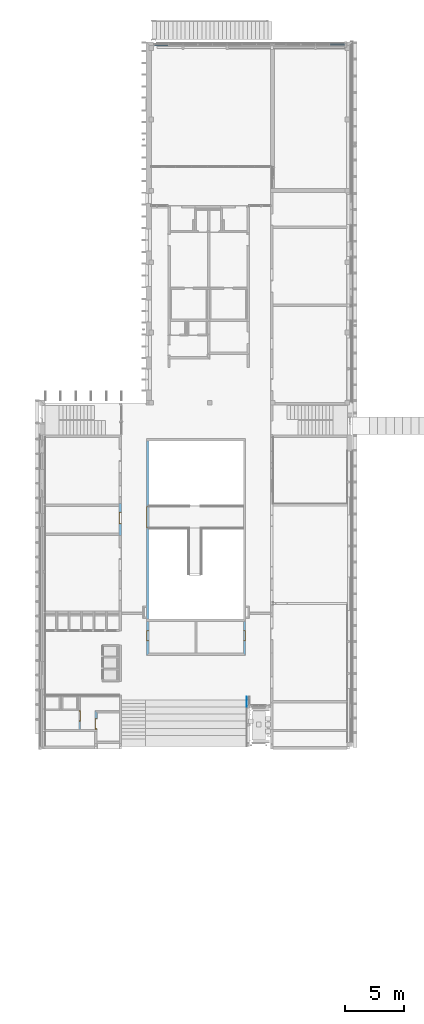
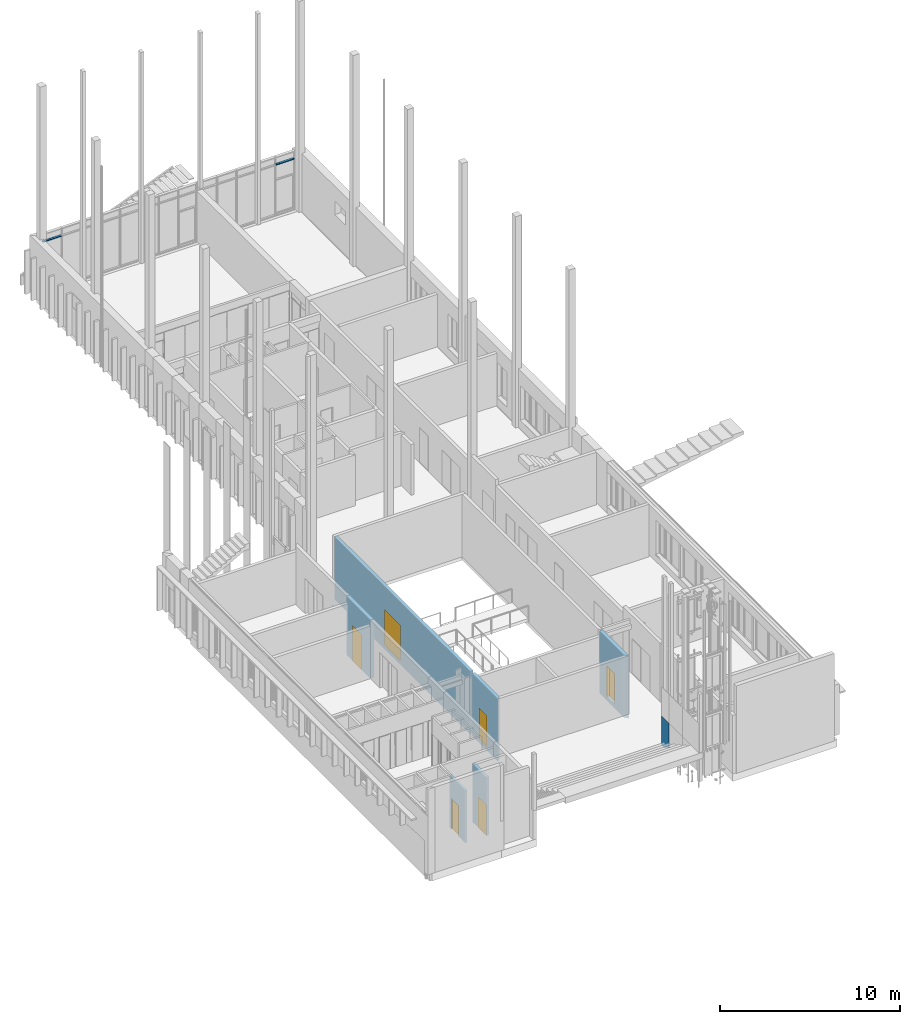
# One storey, part 37 of 89: 6 doors, 2 members, 1 wall, 6 openings, 1 element without a shape of its own, plus 6 elements that do not belong to this part.
"""IFC2X3 building model written with IfcOpenShell, lengths in millimetres."""

import ifcopenshell
import ifcopenshell.guid

model = None  # the IFC model being written
_history = None  # IfcOwnerHistory: only IFC2X3 demands one
_inside = {}  # id of a spatial element -> (the spatial element, [elements in it])
_under = {}  # id of a project, library or spatial element -> (it, [spatial elements below it])
_declared = {}  # id of a project -> (the project, [libraries it declares])
_typed = {}  # id of a type object -> (the type object, [elements of that type])
_made_of = {}  # id of a material, layer set ... -> (it, [elements and type objects made of it])


def new_model(schema):
    """Start an empty IFC model of exactly this schema.

    Asked for "IFC4X3", IfcOpenShell would pick the latest addendum, in which some entities
    have other attributes; the version numbers below select the first issue.
    IFC2X3 requires an IfcOwnerHistory on every rooted entity: one is made here for all.
    """
    global model, _history
    if schema == "IFC4X3":
        model = ifcopenshell.file(schema_version=(4, 3, 0, 0))
    else:
        model = ifcopenshell.file(schema=schema)
    _inside.clear()
    _under.clear()
    _declared.clear()
    _typed.clear()
    _made_of.clear()
    _history = None
    if model.schema == "IFC2X3":
        org = make("IfcOrganization", Name="unknown")
        user = make(
            "IfcPersonAndOrganization",
            ThePerson=make("IfcPerson", FamilyName="unknown"),
            TheOrganization=org,
        )
        app = make(
            "IfcApplication",
            ApplicationDeveloper=org,
            Version="unknown",
            ApplicationFullName="unknown",
            ApplicationIdentifier="unknown",
        )
        _history = make(
            "IfcOwnerHistory",
            OwningUser=user,
            OwningApplication=app,
            ChangeAction="ADDED",
            CreationDate=0,
        )
    return model


def make(cls, **values):
    """One entity of the class cls with the attributes given. An attribute that is None is left unset."""
    return model.create_entity(
        cls, **{name: value for name, value in values.items() if value is not None}
    )


def entity(cls, *values):
    """Any entity or typed value of the class cls, its attributes in the order of the schema. None: left unset."""
    e = model.create_entity(cls)
    for i, value in enumerate(values):
        if value is not None:
            e[i] = value
    return e


def rooted(cls, **values):
    """An entity with a GlobalId (a new one), such as an element, a storey or a relation."""
    return make(cls, GlobalId=ifcopenshell.guid.new(), OwnerHistory=_history, **values)


def si_unit(unit_type, name, prefix=None):
    """IfcSIUnit, for example si_unit("LENGTHUNIT", "METRE", prefix="MILLI")."""
    return make("IfcSIUnit", UnitType=unit_type, Prefix=prefix, Name=name)


def converted_unit(unit_type, name, factor, base, dimensions=None, offset=None):
    """IfcConversionBasedUnit, such as the inch: factor (a typed value) times the base unit."""
    return make(
        "IfcConversionBasedUnit"
        if offset is None
        else "IfcConversionBasedUnitWithOffset",
        ConversionOffset=offset,
        Dimensions=None
        if dimensions is None
        else entity("IfcDimensionalExponents", *dimensions),
        UnitType=unit_type,
        Name=name,
        ConversionFactor=make(
            "IfcMeasureWithUnit", ValueComponent=factor, UnitComponent=base
        ),
    )


def derived_unit(unit_type, elements):
    """IfcDerivedUnit: a product of units, each with its exponent."""
    return make(
        "IfcDerivedUnit",
        Elements=[
            make("IfcDerivedUnitElement", Unit=unit, Exponent=power)
            for unit, power in elements
        ],
        UnitType=unit_type,
    )


def money_unit(currency):
    """IfcMonetaryUnit."""
    return make("IfcMonetaryUnit", Currency=currency)


def assignment(units):
    """IfcUnitAssignment: the units of a project."""
    return None if units is None else make("IfcUnitAssignment", Units=units)


def point(xyz):
    """IfcCartesianPoint."""
    return None if xyz is None else make("IfcCartesianPoint", Coordinates=xyz)


def direction(xyz):
    """IfcDirection."""
    return None if xyz is None else make("IfcDirection", DirectionRatios=xyz)


def frame(location, z_axis=None, x_axis=None):
    """IfcAxis2Placement3D, a coordinate frame: its origin and axes. An axis left out is left unset."""
    return make(
        "IfcAxis2Placement3D",
        Location=point(location),
        Axis=direction(z_axis),
        RefDirection=direction(x_axis),
    )


def frame_2d(location, x_axis=None):
    """IfcAxis2Placement2D, a coordinate frame in the plane: its origin and x axis."""
    return make(
        "IfcAxis2Placement2D", Location=point(location), RefDirection=direction(x_axis)
    )


def origin_with_axes():
    """The frame at (0, 0, 0) with the z axis (0, 0, 1) and the x axis (1, 0, 0) written out."""
    return frame((0.0, 0.0, 0.0), z_axis=(0.0, 0.0, 1.0), x_axis=(1.0, 0.0, 0.0))


def origin_2d_with_axis():
    """The frame at (0, 0) in the plane with the x axis (1, 0) written out."""
    return frame_2d((0.0, 0.0), x_axis=(1.0, 0.0))


def place(relative_to, where):
    """IfcLocalPlacement: puts the frame where relative to a parent placement (None: the world)."""
    return make(
        "IfcLocalPlacement", PlacementRelTo=relative_to, RelativePlacement=where
    )


def context(
    kind, dimensions, precision=None, world=None, true_north=None, identifier=None
):
    """IfcGeometricRepresentationContext, for example the 3D "Model" context."""
    return make(
        "IfcGeometricRepresentationContext",
        ContextIdentifier=identifier,
        ContextType=kind,
        CoordinateSpaceDimension=dimensions,
        Precision=precision,
        WorldCoordinateSystem=world,
        TrueNorth=true_north,
    )


def subcontext(parent, identifier, kind, view, scale=None):
    """IfcGeometricRepresentationSubContext, for example "Body" below "Model"."""
    return make(
        "IfcGeometricRepresentationSubContext",
        ContextIdentifier=identifier,
        ContextType=kind,
        ParentContext=parent,
        TargetScale=scale,
        TargetView=view,
    )


def project(units=None, contexts=None):
    """IfcProject with its units and contexts."""
    return rooted(
        "IfcProject",
        Name="project",
        RepresentationContexts=contexts,
        UnitsInContext=assignment(units),
    )


def spatial(cls, under=None, at=None, **own):
    """A site, building, storey or space (cls), placed at a placement, below another one or the project."""
    s = rooted(cls, ObjectPlacement=at, **own)
    if under is not None:
        _under.setdefault(under.id(), (under, []))[1].append(s)
    return s


def polyline(points):
    """IfcPolyline through the points."""
    return make("IfcPolyline", Points=[point(p) for p in points])


def profile(cls, at=None, kind="AREA", **sizes):
    """A parametric profile (cls). Its sizes go by their IFC names, for example OverallWidth=200.0."""
    return make(cls, ProfileType=kind, Position=at, **sizes)


def rectangle(**sizes):
    """IfcRectangleProfileDef."""
    return profile("IfcRectangleProfileDef", **sizes)


def outline(outer, holes=None, kind="AREA"):
    """IfcArbitraryClosedProfileDef: a profile drawn as a closed curve; with holes, ...WithVoids."""
    if holes is None:
        return make("IfcArbitraryClosedProfileDef", ProfileType=kind, OuterCurve=outer)
    return make(
        "IfcArbitraryProfileDefWithVoids",
        ProfileType=kind,
        OuterCurve=outer,
        InnerCurves=holes,
    )


def extrude(swept, where, along, depth):
    """IfcExtrudedAreaSolid: the profile swept, set in the frame where, extruded along a direction by depth."""
    return make(
        "IfcExtrudedAreaSolid",
        SweptArea=swept,
        Position=where,
        ExtrudedDirection=direction(along),
        Depth=depth,
    )


def boolean(op, a, b):
    """IfcBooleanResult of two solids."""
    return make("IfcBooleanResult", Operator=op, FirstOperand=a, SecondOperand=b)


def faces_of(points, faces, orient=None, outer=None):
    """IfcFace entities. A face is a list of loops; a loop is a list of indices into points, from 0.

    orient and outer hold one flag for each loop. By default every Orientation is true, the
    first loop of a face is its IfcFaceOuterBound and the others are IfcFaceBound.
    """
    made = []
    for i, loops in enumerate(faces):
        bounds = []
        for j, loop in enumerate(loops):
            is_outer = j == 0 if outer is None else outer[i][j]
            bounds.append(
                make(
                    "IfcFaceOuterBound" if is_outer else "IfcFaceBound",
                    Bound=make("IfcPolyLoop", Polygon=[points[k] for k in loop]),
                    Orientation=True if orient is None else orient[i][j],
                )
            )
        made.append(make("IfcFace", Bounds=bounds))
    return made


def faceted_brep(points, faces, orient=None, outer=None, voids=None):
    """IfcFacetedBrep: a solid bounded by flat faces; with voids (closed shells), ...WithVoids."""
    shared = [point(p) for p in points]
    hull = make("IfcClosedShell", CfsFaces=faces_of(shared, faces, orient, outer))
    if voids is None:
        return make("IfcFacetedBrep", Outer=hull)
    return make(
        "IfcFacetedBrepWithVoids",
        Outer=hull,
        Voids=[
            make(cls, CfsFaces=faces_of(shared, fs, o, b)) for cls, fs, o, b in voids
        ],
    )


def shape(context_of_items, identifier, shape_type, items):
    """IfcShapeRepresentation: the items that make up one representation, for example the "Body"."""
    return make(
        "IfcShapeRepresentation",
        ContextOfItems=context_of_items,
        RepresentationIdentifier=identifier,
        RepresentationType=shape_type,
        Items=items,
    )


def material(Name=None, Category=None):
    """IfcMaterial."""
    return make("IfcMaterial", Name=Name, Category=Category)


def layer(
    of_material, thickness, ventilated=None, Name=None, Category=None, Priority=None
):
    """IfcMaterialLayer: one layer of a wall or slab, of a material (None: an air gap)."""
    return make(
        "IfcMaterialLayer",
        Material=of_material,
        LayerThickness=thickness,
        IsVentilated=ventilated,
        Name=Name,
        Category=Category,
        Priority=Priority,
    )


def layer_set(layers, Name=None):
    """IfcMaterialLayerSet."""
    return make("IfcMaterialLayerSet", MaterialLayers=layers, LayerSetName=Name)


def layer_usage(for_layer_set, set_direction, sense, offset, extent=None):
    """IfcMaterialLayerSetUsage: how a layer set lies in its element."""
    return make(
        "IfcMaterialLayerSetUsage",
        ForLayerSet=for_layer_set,
        LayerSetDirection=set_direction,
        DirectionSense=sense,
        OffsetFromReferenceLine=offset,
        ReferenceExtent=extent,
    )


def made_of(thing, what):
    """Note that an element or type object is made of a material, layer set ...; save() writes the relation."""
    if what is not None:
        _made_of.setdefault(what.id(), (what, []))[1].append(thing)
    return thing


def type_object(cls, material=None, **own):
    """A type object (cls), such as IfcWallType, which elements share."""
    return made_of(rooted(cls, **own), material)


def element(
    cls,
    number,
    at=None,
    inside=None,
    cuts=None,
    type_object=None,
    material=None,
    context=None,
    identifier="Body",
    shape_type=None,
    held_by="IfcProductDefinitionShape",
    body=None,
    shapes=None,
    **own,
):
    """One element of the class cls, such as IfcWall. Its Tag is "e" and its number.

    at: its placement. inside: the storey or other place that contains it. cuts: it is an
    opening in that element (IfcRelVoidsElement). A single representation is given by context,
    identifier, shape_type and body (its items); several are given by shapes. held_by: the class
    of the entity that holds the representations. save() writes the other relations.
    """
    e = rooted(cls, Tag="e%d" % number, ObjectPlacement=at, **own)
    if body is not None:
        shapes = [shape(context, identifier, shape_type, body)]
    if shapes is not None:
        e.Representation = make(held_by, Representations=shapes)
    if inside is not None:
        _inside.setdefault(inside.id(), (inside, []))[1].append(e)
    if cuts is not None:
        rooted(
            "IfcRelVoidsElement", RelatingBuildingElement=cuts, RelatedOpeningElement=e
        )
    if type_object is not None:
        _typed.setdefault(type_object.id(), (type_object, []))[1].append(e)
    return made_of(e, material)


def fill(opening, filler):
    """IfcRelFillsElement: the door or window that sits in an opening."""
    return rooted(
        "IfcRelFillsElement",
        RelatingOpeningElement=opening,
        RelatedBuildingElement=filler,
    )


def aggregate(whole, parts):
    """IfcRelAggregates: a whole, such as a stair, and the parts it consists of."""
    return rooted("IfcRelAggregates", RelatingObject=whole, RelatedObjects=parts)


def save(model, path):
    """Write the relations noted so far, then the file.

    IfcRelAggregates (storeys below a building ...), IfcRelContainedInSpatialStructure (elements
    in a storey), IfcRelDefinesByType, IfcRelAssociatesMaterial and IfcRelDeclares: one each for
    every whole, place, type object, material and project.
    """
    for whole, parts in _under.values():
        aggregate(whole, parts)
    for where, things in _inside.values():
        rooted(
            "IfcRelContainedInSpatialStructure",
            RelatedElements=things,
            RelatingStructure=where,
        )
    for kind, things in _typed.values():
        rooted("IfcRelDefinesByType", RelatedObjects=things, RelatingType=kind)
    for what, things in _made_of.values():
        rooted("IfcRelAssociatesMaterial", RelatedObjects=things, RelatingMaterial=what)
    for by, libraries in _declared.values():
        rooted("IfcRelDeclares", RelatingContext=by, RelatedDefinitions=libraries)
    model.write(path)


model = new_model("IFC2X3")

# Units and contexts
model_context = context("Model", 3, precision=0.01, world=origin_with_axes(), true_north=direction((0.0, 1.0)))
body_context = subcontext(model_context, "Body", "Model", "MODEL_VIEW")
ifc_project = project(units=[si_unit("LENGTHUNIT", "METRE", prefix="MILLI"), si_unit("AREAUNIT", "SQUARE_METRE"), si_unit("VOLUMEUNIT", "CUBIC_METRE"), converted_unit("PLANEANGLEUNIT", "DEGREE", entity("IfcPlaneAngleMeasure", 0.0174532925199), si_unit("PLANEANGLEUNIT", "RADIAN"), dimensions=[0, 0, 0, 0, 0, 0, 0]), si_unit("SOLIDANGLEUNIT", "STERADIAN"), money_unit("EUR"), converted_unit("TIMEUNIT", "Year", entity("IfcTimeMeasure", 31556926.0), si_unit("TIMEUNIT", "SECOND"), dimensions=[0, 0, 1, 0, 0, 0, 0]), si_unit("MASSUNIT", "GRAM", prefix="KILO"), si_unit("THERMODYNAMICTEMPERATUREUNIT", "DEGREE_CELSIUS"), si_unit("LUMINOUSINTENSITYUNIT", "LUMEN"), si_unit("ENERGYUNIT", "JOULE", prefix="MEGA"), derived_unit("THERMALCONDUCTANCEUNIT", [(si_unit("POWERUNIT", "WATT"), 1), (si_unit("LENGTHUNIT", "METRE"), -1), (si_unit("THERMODYNAMICTEMPERATUREUNIT", "KELVIN"), -1)]), derived_unit("SPECIFICHEATCAPACITYUNIT", [(si_unit("ENERGYUNIT", "JOULE"), 1), (si_unit("MASSUNIT", "GRAM", prefix="KILO"), -1), (si_unit("THERMODYNAMICTEMPERATUREUNIT", "KELVIN"), -1)]), derived_unit("MASSDENSITYUNIT", [(si_unit("MASSUNIT", "GRAM", prefix="KILO"), 1), (si_unit("VOLUMEUNIT", "CUBIC_METRE"), -1)])], contexts=[model_context])

# Site, building, storey
site_placement = place(None, origin_with_axes())
site = spatial("IfcSite", under=ifc_project, at=site_placement, Name="Puškini 31, Narva", CompositionType="ELEMENT")
building_placement = place(site_placement, origin_with_axes())
building = spatial("IfcBuilding", under=site, at=building_placement, Name="Narva Riigigümnaasium", CompositionType="ELEMENT")
storey_placement = place(building_placement, frame((0.0, 0.0, -3300.0), z_axis=(0.0, 0.0, 1.0), x_axis=(1.0, 0.0, 0.0)))
storey = spatial("IfcBuildingStorey", under=building, at=storey_placement, Name="1.korrus -3.3", CompositionType="ELEMENT", Elevation=-3300.0)

# Curtain wall, members
curtain_wall_type = type_object("IfcCurtainWallType", Name="Curtain Wall Type", PredefinedType="NOTDEFINED")
curtain_wall_placement = place(storey_placement, frame((47634.9999923, 254360.0, -1.86566340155e-05), z_axis=(0.0, 0.0, 1.0), x_axis=(1.0, 0.0, 0.0)))
curtain_wall = element("IfcCurtainWall", 1, at=curtain_wall_placement, inside=storey, type_object=curtain_wall_type, Name="G-KLF-06")
ifc_material_1 = material(Name="ET-04_Alumiinium")
member_type = type_object("IfcMemberType", Name="Boundary Frame 50 x 176", PredefinedType="MULLION")
member_1_placement = place(curtain_wall_placement, frame((4919.00000934, 0.0, 3420.00003901), z_axis=(1.0, 0.0, 0.0), x_axis=(0.0, 0.0, 1.0)))
member_1 = element("IfcMember", 2, at=member_1_placement, type_object=member_type, material=ifc_material_1, Name="klaasfassaadi raam", ObjectType="MULLION", context=body_context, shape_type="Brep", body=[
    faceted_brep([(-10.0, 29.0, 1226.00000014), (-10.0, -29.0, 1226.00000014), (-25.0, -29.0, 1196.00000014), (-25.0, -46.0, 1196.00000014), (0.0, -46.0, 1246.00000014), (0.0, 130.0, 1246.00000014), (-25.0, 130.0, 1196.00000014), (-25.0, 29.0, 1196.00000014), (-10.0, 29.0, 0.0), (-10.0, -29.0, 0.0), (-25.0, -29.0, 0.0), (-25.0, -46.0, 0.0), (25.0, -46.0, 0.0), (25.0, -46.0, 1196.00000014), (25.0, -29.0, 1196.00000014), (10.0, -29.0, 1226.00000014), (10.0, 29.0, 1226.00000014), (25.0, 29.0, 1196.00000014), (25.0, 130.0, 1196.00000014), (25.0, 130.0, 0.0), (-25.0, 130.0, 0.0), (-25.0, 29.0, 0.0), (25.0, 29.0, 0.0), (10.0, 29.0, 0.0), (10.0, -29.0, 0.0), (25.0, -29.0, 0.0)], [[[0, 1, 2, 3, 4, 5, 6, 7]], [[0, 8, 9, 1]], [[1, 9, 10, 2]], [[10, 11, 3, 2]], [[11, 12, 13, 4, 3]], [[5, 4, 13, 14, 15, 16, 17, 18]], [[18, 19, 20, 6, 5]], [[7, 6, 20, 21]], [[7, 21, 8, 0]], [[9, 8, 21, 20, 19, 22, 23, 24, 25, 12, 11, 10]], [[25, 14, 13, 12]], [[14, 25, 24, 15]], [[16, 15, 24, 23]], [[17, 16, 23, 22]], [[17, 22, 19, 18]]]),
])
member_2_placement = place(curtain_wall_placement, frame((-10032.9999923, 0.0, 3420.00003901), z_axis=(1.0, 0.0, 0.0), x_axis=(0.0, 0.0, 1.0)))
member_2 = element("IfcMember", 3, at=member_2_placement, type_object=member_type, material=ifc_material_1, Name="klaasfassaadi raam", ObjectType="MULLION", context=body_context, shape_type="Brep", body=[
    faceted_brep([(-10.0, 29.0, 1242.99997484), (-10.0, -29.0, 1242.99997484), (-25.0, -29.0, 1242.99997484), (-25.0, -46.0, 1242.99997484), (25.0, -46.0, 1242.99997484), (25.0, -29.0, 1242.99997484), (10.0, -29.0, 1242.99997484), (10.0, 29.0, 1242.99997484), (25.0, 29.0, 1242.99997484), (25.0, 130.0, 1242.99997484), (-25.0, 130.0, 1242.99997484), (-25.0, 29.0, 1242.99997484), (-10.0, 29.0, 20.0), (-10.0, -29.0, 20.0), (-25.0, -29.0, 50.0), (-25.0, -46.0, 50.0), (25.0, -46.0, 50.0), (0.0, -46.0, 0.0), (25.0, -29.0, 50.0), (10.0, -29.0, 20.0), (10.0, 29.0, 20.0), (25.0, 29.0, 50.0), (25.0, 130.0, 50.0), (-25.0, 130.0, 50.0), (0.0, 130.0, 0.0), (-25.0, 29.0, 50.0)], [[[0, 1, 2, 3, 4, 5, 6, 7, 8, 9, 10, 11]], [[0, 12, 13, 1]], [[1, 13, 14, 2]], [[14, 15, 3, 2]], [[16, 4, 3, 15, 17]], [[18, 5, 4, 16]], [[5, 18, 19, 6]], [[7, 6, 19, 20]], [[8, 7, 20, 21]], [[8, 21, 22, 9]], [[23, 10, 9, 22, 24]], [[11, 10, 23, 25]], [[11, 25, 12, 0]], [[13, 12, 25, 23, 24, 17, 15, 14]], [[16, 17, 24, 22, 21, 20, 19, 18]]]),
])
aggregate(curtain_wall, [member_1, member_2])

# Wall, opening, door
ifc_material_2 = material(Name="Betoon element")
ifc_layer_1 = layer(ifc_material_2, 200.0, ventilated="UNKNOWN")
ifc_layer_set_1 = layer_set([ifc_layer_1], Name="G-SS-01")
ifc_layer_usage_1 = layer_usage(ifc_layer_set_1, "AXIS2", "NEGATIVE", 0.0)
wall_type_1 = type_object("IfcWallType", Name="G-SS-01 200", PredefinedType="NOTDEFINED")
wall_1_placement = place(storey_placement, frame((37200.0042688, 220780.0, -290.0), z_axis=(0.0, 0.0, 1.0), x_axis=(0.0, -1.0, 0.0)))
wall_1 = element("IfcWallStandardCase", 4, at=wall_1_placement, inside=storey, type_object=wall_type_1, material=ifc_layer_usage_1, Name="Sisesein", context=body_context, shape_type="SweptSolid", body=[
    extrude(outline(polyline([(0.0, -200.0), (15079.9999758, -200.0), (15079.9999758, 0.0), (0.0, 0.0), (0.0, -200.0)])), origin_with_axes(), (0.0, 0.0, 1.0), 4250.0),
])
opening_1_placement = place(wall_1_placement, frame((6465.49976501, 0.0, 290.0), z_axis=(0.0, 0.0, 1.0), x_axis=(1.0, 0.0, 0.0)))
opening_1 = element("IfcOpeningElement", 5, at=opening_1_placement, cuts=wall_1, Name="G-SU-036", context=body_context, shape_type="SweptSolid", body=[
    extrude(rectangle(XDim=1799.99999997, YDim=2400.0, at=origin_2d_with_axis()), frame((0.0, 200.0, 1200.0), z_axis=(0.0, 1.0, 0.0), x_axis=(1.0, 0.0, 0.0)), (0.0, 0.0, -1.0), 600.0),
])
door_style_1 = type_object("IfcDoorStyle", Name="Double Door 23", ConstructionType="NOTDEFINED", OperationType="DOUBLE_DOOR_SINGLE_SWING", ParameterTakesPrecedence=False, Sizeable=False)
door_1_placement = place(opening_1_placement, frame((899.999999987, 0.0, 0.0), z_axis=(0.0, 0.0, 1.0), x_axis=(-1.0, 0.0, 0.0)))
door_1 = element("IfcDoor", 6, at=door_1_placement, inside=storey, type_object=door_style_1, Name="G-SU-036", ObjectType="DOOR", OverallHeight=2400.0, OverallWidth=1800.0, context=body_context, shape_type="Brep", body=[
    faceted_brep([(1759.99999997, 160.0, 0.0), (1759.99999997, 0.0, 0.0), (1759.99999997, 0.0, 2360.0), (1759.99999997, 160.0, 2360.0), (1771.99999997, 160.0, 0.0), (1771.99999997, 200.0, 0.0), (1799.99999997, 200.0, 0.0), (1799.99999997, 0.0, 0.0), (1799.99999997, 0.0, 2360.0), (1771.99999997, 160.0, 2360.0), (1799.99999997, 200.0, 2360.0), (1771.99999997, 200.0, 2360.0)], [[[0, 1, 2, 3]], [[4, 5, 6, 7, 1, 0]], [[1, 7, 8, 2]], [[9, 3, 2, 8, 10, 11]], [[9, 4, 0, 3]], [[11, 5, 4, 9]], [[11, 10, 6, 5]], [[6, 10, 8, 7]]]),
    faceted_brep([(28.0, 160.0, 2360.0), (28.0, 200.0, 2360.0), (0.0, 200.0, 2360.0), (0.0, 0.0, 2360.0), (40.0, 0.0, 2360.0), (40.0, 160.0, 2360.0), (28.0, 160.0, 0.0), (28.0, 200.0, 0.0), (0.0, 200.0, 0.0), (0.0, 0.0, 0.0), (40.0, 0.0, 0.0), (40.0, 160.0, 0.0)], [[[0, 1, 2, 3, 4, 5]], [[0, 6, 7, 1]], [[7, 8, 2, 1]], [[2, 8, 9, 3]], [[3, 9, 10, 4]], [[5, 4, 10, 11]], [[5, 11, 6, 0]], [[6, 11, 10, 9, 8, 7]]]),
    faceted_brep([(1771.99999997, 200.0, 2372.0), (28.0, 200.0, 2372.0), (28.0, 200.0, 2360.0), (0.0, 200.0, 2360.0), (0.0, 200.0, 2400.0), (1799.99999997, 200.0, 2400.0), (1799.99999997, 200.0, 2360.0), (1771.99999997, 200.0, 2360.0), (1771.99999997, 160.0, 2372.0), (28.0, 160.0, 2372.0), (28.0, 160.0, 2360.0), (40.0, 160.0, 2360.0), (40.0, 0.0, 2360.0), (0.0, 0.0, 2360.0), (0.0, 0.0, 2400.0), (1799.99999997, 0.0, 2400.0), (1799.99999997, 0.0, 2360.0), (1771.99999997, 160.0, 2360.0), (1759.99999997, 0.0, 2360.0), (1759.99999997, 160.0, 2360.0)], [[[0, 1, 2, 3, 4, 5, 6, 7]], [[0, 8, 9, 1]], [[1, 9, 10, 2]], [[10, 11, 12, 13, 3, 2]], [[4, 3, 13, 14]], [[5, 4, 14, 15]], [[6, 5, 15, 16]], [[17, 7, 6, 16, 18, 19]], [[7, 17, 8, 0]], [[10, 9, 8, 17, 19, 11]], [[19, 18, 12, 11]], [[12, 18, 16, 15, 14, 13]]]),
    faceted_brep([(28.0, 200.0, 0.0), (899.999999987, 200.0, 0.0), (899.999999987, 160.0, 0.0), (28.0, 160.0, 0.0), (28.0, 200.0, 2372.0), (899.999999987, 200.0, 2372.0), (899.999999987, 160.0, 2372.0), (28.0, 160.0, 2372.0)], [[[0, 1, 2, 3]], [[0, 4, 5, 1]], [[1, 5, 6, 2]], [[3, 2, 6, 7]], [[4, 0, 3, 7]], [[5, 4, 7, 6]]]),
    faceted_brep([(1771.99999997, 200.0, 0.0), (1771.99999997, 160.0, 0.0), (899.999999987, 160.0, 0.0), (899.999999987, 200.0, 0.0), (1771.99999997, 200.0, 2372.0), (1771.99999997, 160.0, 2372.0), (899.999999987, 160.0, 2372.0), (899.999999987, 200.0, 2372.0)], [[[0, 1, 2, 3]], [[4, 5, 1, 0]], [[1, 5, 6, 2]], [[3, 2, 6, 7]], [[0, 3, 7, 4]], [[7, 6, 5, 4]]]),
])
fill(opening_1, door_1)

wall_2_placement = place(storey_placement, frame((45199.9999996, 202600.000006, -290.0), z_axis=(0.0, 0.0, 1.0), x_axis=(0.0, 1.0, 0.0)))
wall_2 = element("IfcWallStandardCase", 7, at=wall_2_placement, inside=storey, type_object=wall_type_1, material=ifc_layer_usage_1, Name="Sisesein", context=body_context, shape_type="SweptSolid", body=[
    extrude(outline(polyline([(-5.93698246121e-06, -200.0), (2900.00001827, -200.0), (2900.00001827, 0.0), (199.999994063, 0.0), (-5.93698246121e-06, -200.0)])), origin_with_axes(), (0.0, 0.0, 1.0), 4250.0),
])
opening_2_placement = place(wall_2_placement, frame((1665.00026742, 0.0, 290.0), z_axis=(0.0, 0.0, 1.0), x_axis=(1.0, 0.0, 0.0)))
opening_2 = element("IfcOpeningElement", 8, at=opening_2_placement, cuts=wall_2, Name="G-SU-038", context=body_context, shape_type="SweptSolid", body=[
    extrude(rectangle(XDim=900.0, YDim=2100.0, at=origin_2d_with_axis()), frame((0.0, 200.0, 1050.0), z_axis=(0.0, 1.0, 0.0), x_axis=(1.0, 0.0, 0.0)), (0.0, 0.0, -1.0), 600.0),
])
door_style_2 = type_object("IfcDoorStyle", Name="Door 23", ConstructionType="NOTDEFINED", OperationType="SINGLE_SWING_LEFT", ParameterTakesPrecedence=False, Sizeable=False)
door_2_placement = place(opening_2_placement, frame((450.0, 0.0, 0.0), z_axis=(0.0, 0.0, 1.0), x_axis=(-1.0, 0.0, 0.0)))
door_2 = element("IfcDoor", 9, at=door_2_placement, inside=storey, type_object=door_style_2, Name="G-SU-038", ObjectType="DOOR", OverallHeight=2100.0, OverallWidth=900.0, context=body_context, shape_type="Brep", body=[
    faceted_brep([(860.0, 160.0, 0.0), (860.0, 0.0, 0.0), (860.0, 0.0, 2060.0), (860.0, 160.0, 2060.0), (872.0, 160.0, 0.0), (872.0, 200.0, 0.0), (900.0, 200.0, 0.0), (900.0, 0.0, 0.0), (900.0, 0.0, 2060.0), (872.0, 160.0, 2060.0), (900.0, 200.0, 2060.0), (872.0, 200.0, 2060.0)], [[[0, 1, 2, 3]], [[4, 5, 6, 7, 1, 0]], [[1, 7, 8, 2]], [[9, 3, 2, 8, 10, 11]], [[9, 4, 0, 3]], [[11, 5, 4, 9]], [[11, 10, 6, 5]], [[6, 10, 8, 7]]]),
    faceted_brep([(28.0, 160.0, 2060.0), (28.0, 200.0, 2060.0), (0.0, 200.0, 2060.0), (0.0, 0.0, 2060.0), (40.0, 0.0, 2060.0), (40.0, 160.0, 2060.0), (28.0, 160.0, 0.0), (28.0, 200.0, 0.0), (0.0, 200.0, 0.0), (0.0, 0.0, 0.0), (40.0, 0.0, 0.0), (40.0, 160.0, 0.0)], [[[0, 1, 2, 3, 4, 5]], [[0, 6, 7, 1]], [[7, 8, 2, 1]], [[2, 8, 9, 3]], [[3, 9, 10, 4]], [[5, 4, 10, 11]], [[5, 11, 6, 0]], [[6, 11, 10, 9, 8, 7]]]),
    faceted_brep([(872.0, 200.0, 2072.0), (28.0, 200.0, 2072.0), (28.0, 200.0, 2060.0), (0.0, 200.0, 2060.0), (0.0, 200.0, 2100.0), (900.0, 200.0, 2100.0), (900.0, 200.0, 2060.0), (872.0, 200.0, 2060.0), (872.0, 160.0, 2072.0), (28.0, 160.0, 2072.0), (28.0, 160.0, 2060.0), (40.0, 160.0, 2060.0), (40.0, 0.0, 2060.0), (0.0, 0.0, 2060.0), (0.0, 0.0, 2100.0), (900.0, 0.0, 2100.0), (900.0, 0.0, 2060.0), (872.0, 160.0, 2060.0), (860.0, 0.0, 2060.0), (860.0, 160.0, 2060.0)], [[[0, 1, 2, 3, 4, 5, 6, 7]], [[0, 8, 9, 1]], [[1, 9, 10, 2]], [[10, 11, 12, 13, 3, 2]], [[4, 3, 13, 14]], [[5, 4, 14, 15]], [[6, 5, 15, 16]], [[17, 7, 6, 16, 18, 19]], [[7, 17, 8, 0]], [[10, 9, 8, 17, 19, 11]], [[19, 18, 12, 11]], [[12, 18, 16, 15, 14, 13]]]),
    faceted_brep([(28.0, 200.0, 0.0), (872.0, 200.0, 0.0), (872.0, 160.0, 0.0), (28.0, 160.0, 0.0), (28.0, 200.0, 2072.0), (872.0, 200.0, 2072.0), (872.0, 160.0, 2072.0), (28.0, 160.0, 2072.0)], [[[0, 1, 2, 3]], [[0, 4, 5, 1]], [[1, 5, 6, 2]], [[3, 2, 6, 7]], [[4, 0, 3, 7]], [[5, 4, 7, 6]]]),
])
fill(opening_2, door_2)

wall_3_placement = place(storey_placement, frame((37199.932167, 205700.000024, -290.0), z_axis=(0.0, 0.0, 1.0), x_axis=(0.0, -1.0, 0.0)))
wall_3 = element("IfcWallStandardCase", 10, at=wall_3_placement, inside=storey, type_object=wall_type_1, material=ifc_layer_usage_1, Name="Sisesein", context=body_context, shape_type="SweptSolid", body=[
    extrude(outline(polyline([(200.0, -200.0), (3100.00002421, -200.0), (2900.00002421, 0.0), (200.0, 0.0), (200.0, -200.0)])), origin_with_axes(), (0.0, 0.0, 1.0), 4250.0),
])
opening_3_placement = place(wall_3_placement, frame((1434.9998066, 0.0, 290.0), z_axis=(0.0, 0.0, 1.0), x_axis=(1.0, 0.0, 0.0)))
opening_3 = element("IfcOpeningElement", 11, at=opening_3_placement, cuts=wall_3, Name="G-SU-037", context=body_context, shape_type="SweptSolid", body=[
    extrude(rectangle(XDim=900.0, YDim=2100.0, at=origin_2d_with_axis()), frame((0.0, 200.0, 1050.0), z_axis=(0.0, -1.0, 0.0), x_axis=(-1.0, 0.0, 0.0)), (0.0, 0.0, 1.0), 600.0),
])
door_style_3 = type_object("IfcDoorStyle", Name="Door 23", ConstructionType="NOTDEFINED", OperationType="SINGLE_SWING_RIGHT", ParameterTakesPrecedence=False, Sizeable=False)
door_3_placement = place(opening_3_placement, frame((450.0, 0.0, 0.0), z_axis=(0.0, 0.0, 1.0), x_axis=(-1.0, 0.0, 0.0)))
door_3 = element("IfcDoor", 12, at=door_3_placement, inside=storey, type_object=door_style_3, Name="G-SU-037", ObjectType="DOOR", OverallHeight=2100.0, OverallWidth=900.0, context=body_context, shape_type="Brep", body=[
    faceted_brep([(40.0, 160.0, 0.0), (40.0, 160.0, 2060.0), (40.0, 0.0, 2060.0), (40.0, 0.0, 0.0), (28.0, 160.0, 2060.0), (28.0, 160.0, 0.0), (28.0, 200.0, 2060.0), (0.0, 200.0, 2060.0), (0.0, 0.0, 2060.0), (0.0, 0.0, 0.0), (0.0, 200.0, 0.0), (28.0, 200.0, 0.0)], [[[0, 1, 2, 3]], [[4, 1, 0, 5]], [[4, 6, 7, 8, 2, 1]], [[3, 2, 8, 9]], [[5, 0, 3, 9, 10, 11]], [[6, 4, 5, 11]], [[6, 11, 10, 7]], [[10, 9, 8, 7]]]),
    faceted_brep([(872.0, 160.0, 2060.0), (860.0, 160.0, 2060.0), (860.0, 0.0, 2060.0), (900.0, 0.0, 2060.0), (900.0, 200.0, 2060.0), (872.0, 200.0, 2060.0), (872.0, 160.0, 0.0), (860.0, 160.0, 0.0), (860.0, 0.0, 0.0), (900.0, 0.0, 0.0), (900.0, 200.0, 0.0), (872.0, 200.0, 0.0)], [[[0, 1, 2, 3, 4, 5]], [[1, 0, 6, 7]], [[1, 7, 8, 2]], [[3, 2, 8, 9]], [[4, 3, 9, 10]], [[11, 5, 4, 10]], [[0, 5, 11, 6]], [[6, 11, 10, 9, 8, 7]]]),
    faceted_brep([(28.0, 200.0, 2072.0), (28.0, 200.0, 2060.0), (0.0, 200.0, 2060.0), (0.0, 200.0, 2100.0), (900.0, 200.0, 2100.0), (900.0, 200.0, 2060.0), (872.0, 200.0, 2060.0), (872.0, 200.0, 2072.0), (28.0, 160.0, 2072.0), (28.0, 160.0, 2060.0), (40.0, 160.0, 2060.0), (40.0, 0.0, 2060.0), (0.0, 0.0, 2060.0), (0.0, 0.0, 2100.0), (900.0, 0.0, 2100.0), (900.0, 0.0, 2060.0), (872.0, 160.0, 2060.0), (860.0, 0.0, 2060.0), (860.0, 160.0, 2060.0), (872.0, 160.0, 2072.0)], [[[0, 1, 2, 3, 4, 5, 6, 7]], [[1, 0, 8, 9]], [[9, 10, 11, 12, 2, 1]], [[2, 12, 13, 3]], [[3, 13, 14, 4]], [[4, 14, 15, 5]], [[16, 6, 5, 15, 17, 18]], [[7, 6, 16, 19]], [[0, 7, 19, 8]], [[16, 18, 10, 9, 8, 19]], [[10, 18, 17, 11]], [[17, 15, 14, 13, 12, 11]]]),
    faceted_brep([(872.0, 200.0, 0.0), (872.0, 160.0, 0.0), (28.0, 160.0, 0.0), (28.0, 200.0, 0.0), (872.0, 200.0, 2072.0), (872.0, 160.0, 2072.0), (28.0, 160.0, 2072.0), (28.0, 200.0, 2072.0)], [[[0, 1, 2, 3]], [[4, 5, 1, 0]], [[1, 5, 6, 2]], [[3, 2, 6, 7]], [[0, 3, 7, 4]], [[7, 6, 5, 4]]]),
])
fill(opening_3, door_3)

# Wall
ifc_material_3 = material(Name="Klaas")
wall_type_2 = type_object("IfcWallType", Name="Klaas 12", PredefinedType="NOTDEFINED")
wall_4_placement = place(storey_placement, frame((45488.0, 199106.971327, 5.0), z_axis=(0.0, 0.0, 1.0), x_axis=(0.0, -1.0, 0.0)))
element("IfcWall", 13, at=wall_4_placement, inside=storey, type_object=wall_type_2, material=ifc_material_3, Name="Sisesein", context=body_context, shape_type="CSG", body=[
    boolean("DIFFERENCE", extrude(outline(polyline([(0.0, -12.0), (845.0, -12.0), (845.0, 0.0), (0.0, 0.0), (0.0, -12.0)])), origin_with_axes(), (0.0, 0.0, 1.0), 1974.0), faceted_brep([(277.483881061, 0.0, 0.706356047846), (845.0, 0.0, 312.840221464), (845.0, 0.0, 0.0), (277.483881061, 0.0, 0.0), (277.483881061, -12.0, 0.706356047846), (845.0, -12.0, 312.840221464), (845.0, -12.0, 0.0), (277.483881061, -12.0, 0.0)], [[[0, 1, 2, 3]], [[1, 0, 4, 5]], [[1, 5, 6, 2]], [[7, 3, 2, 6]], [[0, 3, 7, 4]], [[4, 7, 6, 5]]])),
])

# Wall, opening, door
ifc_material_4 = material(Name="siseviimistlus-seinad")
ifc_layer_2 = layer(ifc_material_4, 10.0, ventilated="UNKNOWN")
ifc_layer_set_2 = layer_set([ifc_layer_1, ifc_layer_2], Name="G-SS-01-02")
ifc_layer_usage_2 = layer_usage(ifc_layer_set_2, "AXIS2", "NEGATIVE", 0.0)
wall_type_3 = type_object("IfcWallType", Name="G-SS-01-02 210", PredefinedType="NOTDEFINED")
wall_5_placement = place(storey_placement, frame((34899.9999996, 215460.0, 0.0), z_axis=(0.0, 0.0, 1.0), x_axis=(0.0, -1.0, 0.0)))
wall_5 = element("IfcWallStandardCase", 14, at=wall_5_placement, inside=storey, type_object=wall_type_3, material=ifc_layer_usage_2, Name="Sisesein", context=body_context, shape_type="SweptSolid", body=[
    extrude(outline(polyline([(0.0, -210.0), (2699.99898234, -210.0), (2699.99898234, 0.0), (0.0, 0.0), (0.0, -210.0)])), origin_with_axes(), (0.0, 0.0, 1.0), 3960.0),
])
opening_4_placement = place(wall_5_placement, frame((1209.99999464, 0.0, 0.0), z_axis=(0.0, 0.0, 1.0), x_axis=(1.0, 0.0, 0.0)))
opening_4 = element("IfcOpeningElement", 15, at=opening_4_placement, cuts=wall_5, Name="G-SU-030", context=body_context, shape_type="SweptSolid", body=[
    extrude(rectangle(XDim=1000.0, YDim=2400.0, at=origin_2d_with_axis()), frame((0.0, -210.0, 1200.0), z_axis=(0.0, 1.0, 0.0), x_axis=(-1.0, 0.0, 0.0)), (0.0, 0.0, 1.0), 630.0),
])
door_style_4 = type_object("IfcDoorStyle", Name="Door 23", ConstructionType="NOTDEFINED", OperationType="SINGLE_SWING_RIGHT", ParameterTakesPrecedence=False, Sizeable=False)
door_4_placement = place(opening_4_placement, frame((500.0, 0.0, 0.0), z_axis=(0.0, 0.0, 1.0), x_axis=(-1.0, 0.0, 0.0)))
door_4 = element("IfcDoor", 16, at=door_4_placement, inside=storey, type_object=door_style_4, Name="G-SU-030", ObjectType="DOOR", OverallHeight=2400.0, OverallWidth=1000.0, context=body_context, shape_type="Brep", body=[
    faceted_brep([(40.0, 170.0, 0.0), (40.0, 170.0, 2360.0), (40.0, 0.0, 2360.0), (40.0, 0.0, 0.0), (28.0, 170.0, 2360.0), (28.0, 170.0, 0.0), (28.0, 210.0, 2360.0), (0.0, 210.0, 2360.0), (0.0, 0.0, 2360.0), (0.0, 0.0, 0.0), (0.0, 210.0, 0.0), (28.0, 210.0, 0.0)], [[[0, 1, 2, 3]], [[4, 1, 0, 5]], [[4, 6, 7, 8, 2, 1]], [[3, 2, 8, 9]], [[5, 0, 3, 9, 10, 11]], [[6, 4, 5, 11]], [[6, 11, 10, 7]], [[10, 9, 8, 7]]]),
    faceted_brep([(972.0, 170.0, 2360.0), (960.0, 170.0, 2360.0), (960.0, 0.0, 2360.0), (1000.0, 0.0, 2360.0), (1000.0, 210.0, 2360.0), (972.0, 210.0, 2360.0), (972.0, 170.0, 0.0), (960.0, 170.0, 0.0), (960.0, 0.0, 0.0), (1000.0, 0.0, 0.0), (1000.0, 210.0, 0.0), (972.0, 210.0, 0.0)], [[[0, 1, 2, 3, 4, 5]], [[1, 0, 6, 7]], [[1, 7, 8, 2]], [[3, 2, 8, 9]], [[4, 3, 9, 10]], [[11, 5, 4, 10]], [[0, 5, 11, 6]], [[6, 11, 10, 9, 8, 7]]]),
    faceted_brep([(28.0, 210.0, 2372.0), (28.0, 210.0, 2360.0), (0.0, 210.0, 2360.0), (0.0, 210.0, 2400.0), (1000.0, 210.0, 2400.0), (1000.0, 210.0, 2360.0), (972.0, 210.0, 2360.0), (972.0, 210.0, 2372.0), (28.0, 170.0, 2372.0), (28.0, 170.0, 2360.0), (40.0, 170.0, 2360.0), (40.0, 0.0, 2360.0), (0.0, 0.0, 2360.0), (0.0, 0.0, 2400.0), (1000.0, 0.0, 2400.0), (1000.0, 0.0, 2360.0), (972.0, 170.0, 2360.0), (960.0, 0.0, 2360.0), (960.0, 170.0, 2360.0), (972.0, 170.0, 2372.0)], [[[0, 1, 2, 3, 4, 5, 6, 7]], [[1, 0, 8, 9]], [[9, 10, 11, 12, 2, 1]], [[2, 12, 13, 3]], [[3, 13, 14, 4]], [[4, 14, 15, 5]], [[16, 6, 5, 15, 17, 18]], [[7, 6, 16, 19]], [[0, 7, 19, 8]], [[16, 18, 10, 9, 8, 19]], [[10, 18, 17, 11]], [[17, 15, 14, 13, 12, 11]]]),
    faceted_brep([(972.0, 210.0, 0.0), (972.0, 170.0, 0.0), (28.0, 170.0, 0.0), (28.0, 210.0, 0.0), (972.0, 210.0, 2372.0), (972.0, 170.0, 2372.0), (28.0, 170.0, 2372.0), (28.0, 210.0, 2372.0)], [[[0, 1, 2, 3]], [[4, 5, 1, 0]], [[1, 5, 6, 2]], [[3, 2, 6, 7]], [[0, 3, 7, 4]], [[7, 6, 5, 4]]]),
])
fill(opening_4, door_4)

ifc_material_5 = material(Name="kergbetoonplokk")
ifc_layer_3 = layer(ifc_material_5, 100.0, ventilated="UNKNOWN")
ifc_layer_set_3 = layer_set([ifc_layer_2, ifc_layer_3, ifc_layer_2], Name="G-SS-05")
ifc_layer_usage_3 = layer_usage(ifc_layer_set_3, "AXIS2", "NEGATIVE", 10.0)
wall_type_4 = type_object("IfcWallType", Name="G-SS-05 120", PredefinedType="NOTDEFINED")
wall_6_placement = place(storey_placement, frame((31300.0183193, 196349.999994, 0.0), z_axis=(0.0, 0.0, 1.0), x_axis=(0.0, 1.0, 0.0)))
wall_6 = element("IfcWallStandardCase", 17, at=wall_6_placement, inside=storey, type_object=wall_type_4, material=ifc_layer_usage_3, Name="Sisesein", context=body_context, shape_type="SweptSolid", body=[
    extrude(outline(polyline([(0.0, -110.0), (1724.99970727, -110.0), (1724.99970727, 10.0), (0.0, 10.0), (0.0, -110.0)])), origin_with_axes(), (0.0, 0.0, 1.0), 3565.0),
])
opening_5_placement = place(wall_6_placement, frame((1150.00000576, 0.0, 0.0), z_axis=(0.0, 0.0, 1.0), x_axis=(1.0, 0.0, 0.0)))
opening_5 = element("IfcOpeningElement", 18, at=opening_5_placement, cuts=wall_6, Name="G-SU-018", context=body_context, shape_type="SweptSolid", body=[
    extrude(rectangle(XDim=900.0, YDim=2100.0, at=origin_2d_with_axis()), frame((0.0, 120.0, 1050.0), z_axis=(0.0, -1.0, 0.0), x_axis=(-1.0, 0.0, 0.0)), (0.0, 0.0, 1.0), 360.0),
])
door_style_5 = type_object("IfcDoorStyle", Name="Door 23", ConstructionType="NOTDEFINED", OperationType="SINGLE_SWING_RIGHT", ParameterTakesPrecedence=False, Sizeable=False)
door_5_placement = place(opening_5_placement, frame((450.0, 0.0, 0.0), z_axis=(0.0, 0.0, 1.0), x_axis=(-1.0, 0.0, 0.0)))
door_5 = element("IfcDoor", 19, at=door_5_placement, inside=storey, type_object=door_style_5, Name="G-SU-018", ObjectType="DOOR", OverallHeight=2100.0, OverallWidth=900.0, context=body_context, shape_type="Brep", body=[
    faceted_brep([(50.0, 70.0, 0.0), (50.0, 70.0, 2050.0), (50.0, -10.0, 2050.0), (50.0, -10.0, 0.0), (38.0, 70.0, 2050.0), (38.0, 70.0, 0.0), (38.0, 110.0, 2050.0), (0.0, 110.0, 2050.0), (0.0, -10.0, 2050.0), (0.0, -10.0, 0.0), (0.0, 110.0, 0.0), (38.0, 110.0, 0.0)], [[[0, 1, 2, 3]], [[4, 1, 0, 5]], [[4, 6, 7, 8, 2, 1]], [[3, 2, 8, 9]], [[5, 0, 3, 9, 10, 11]], [[6, 4, 5, 11]], [[6, 11, 10, 7]], [[10, 9, 8, 7]]]),
    faceted_brep([(862.0, 70.0, 2050.0), (850.0, 70.0, 2050.0), (850.0, -10.0, 2050.0), (900.0, -10.0, 2050.0), (900.0, 110.0, 2050.0), (862.0, 110.0, 2050.0), (862.0, 70.0, 0.0), (850.0, 70.0, 0.0), (850.0, -10.0, 0.0), (900.0, -10.0, 0.0), (900.0, 110.0, 0.0), (862.0, 110.0, 0.0)], [[[0, 1, 2, 3, 4, 5]], [[1, 0, 6, 7]], [[1, 7, 8, 2]], [[3, 2, 8, 9]], [[4, 3, 9, 10]], [[11, 5, 4, 10]], [[0, 5, 11, 6]], [[6, 11, 10, 9, 8, 7]]]),
    faceted_brep([(38.0, 110.0, 2062.0), (38.0, 110.0, 2050.0), (0.0, 110.0, 2050.0), (0.0, 110.0, 2100.0), (900.0, 110.0, 2100.0), (900.0, 110.0, 2050.0), (862.0, 110.0, 2050.0), (862.0, 110.0, 2062.0), (38.0, 70.0, 2062.0), (38.0, 70.0, 2050.0), (50.0, 70.0, 2050.0), (50.0, -10.0, 2050.0), (0.0, -10.0, 2050.0), (0.0, -10.0, 2100.0), (900.0, -10.0, 2100.0), (900.0, -10.0, 2050.0), (862.0, 70.0, 2050.0), (850.0, -10.0, 2050.0), (850.0, 70.0, 2050.0), (862.0, 70.0, 2062.0)], [[[0, 1, 2, 3, 4, 5, 6, 7]], [[1, 0, 8, 9]], [[9, 10, 11, 12, 2, 1]], [[2, 12, 13, 3]], [[3, 13, 14, 4]], [[4, 14, 15, 5]], [[16, 6, 5, 15, 17, 18]], [[7, 6, 16, 19]], [[0, 7, 19, 8]], [[16, 18, 10, 9, 8, 19]], [[10, 18, 17, 11]], [[17, 15, 14, 13, 12, 11]]]),
    faceted_brep([(862.0, 110.0, 0.0), (862.0, 70.0, 0.0), (38.0, 70.0, 0.0), (38.0, 110.0, 0.0), (862.0, 110.0, 2062.0), (862.0, 70.0, 2062.0), (38.0, 70.0, 2062.0), (38.0, 110.0, 2062.0)], [[[0, 1, 2, 3]], [[4, 5, 1, 0]], [[1, 5, 6, 2]], [[3, 2, 6, 7]], [[0, 3, 7, 4]], [[7, 6, 5, 4]]]),
])
fill(opening_5, door_5)

ifc_layer_4 = layer(ifc_material_5, 150.0, ventilated="UNKNOWN")
ifc_layer_set_4 = layer_set([ifc_layer_2, ifc_layer_4, ifc_layer_2], Name="G-SS-04")
ifc_layer_usage_4 = layer_usage(ifc_layer_set_4, "AXIS2", "POSITIVE", -10.0)
wall_type_5 = type_object("IfcWallType", Name="G-SS-04 170", PredefinedType="NOTDEFINED")
wall_7_placement = place(storey_placement, frame((32810.0000014, 196349.999994, 0.0), z_axis=(0.0, 0.0, 1.0), x_axis=(0.0, 1.0, 0.0)))
wall_7 = element("IfcWallStandardCase", 20, at=wall_7_placement, inside=storey, type_object=wall_type_5, material=ifc_layer_usage_4, Name="Sisesein", context=body_context, shape_type="SweptSolid", body=[
    extrude(outline(polyline([(0.0, -10.0), (1389.75870118, -10.0), (1559.75870118, 160.0), (0.0, 160.0), (0.0, -10.0)])), origin_with_axes(), (0.0, 0.0, 1.0), 3960.0),
])
opening_6_placement = place(wall_7_placement, frame((460.000005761, 0.0, 0.0), z_axis=(0.0, 0.0, 1.0), x_axis=(1.0, 0.0, 0.0)))
opening_6 = element("IfcOpeningElement", 21, at=opening_6_placement, cuts=wall_7, Name="G-SU-019", context=body_context, shape_type="SweptSolid", body=[
    extrude(rectangle(XDim=900.0, YDim=2100.0, at=origin_2d_with_axis()), frame((0.0, -170.0, 1050.0), z_axis=(0.0, -1.0, 0.0), x_axis=(-1.0, 0.0, 0.0)), (0.0, 0.0, -1.0), 510.0),
])
door_style_6 = type_object("IfcDoorStyle", Name="Door 23", ConstructionType="NOTDEFINED", OperationType="SINGLE_SWING_LEFT", ParameterTakesPrecedence=False, Sizeable=False)
door_6_placement = place(opening_6_placement, frame((-450.0, 0.0, 0.0), z_axis=(0.0, 0.0, 1.0), x_axis=(1.0, 0.0, 0.0)))
door_6 = element("IfcDoor", 22, at=door_6_placement, inside=storey, type_object=door_style_6, Name="G-SU-019", ObjectType="DOOR", OverallHeight=2100.0, OverallWidth=900.0, context=body_context, shape_type="Brep", body=[
    faceted_brep([(850.0, 120.0, 0.0), (850.0, -10.0, 0.0), (850.0, -10.0, 2050.0), (850.0, 120.0, 2050.0), (862.0, 120.0, 0.0), (862.0, 160.0, 0.0), (900.0, 160.0, 0.0), (900.0, -10.0, 0.0), (900.0, -10.0, 2050.0), (862.0, 120.0, 2050.0), (900.0, 160.0, 2050.0), (862.0, 160.0, 2050.0)], [[[0, 1, 2, 3]], [[4, 5, 6, 7, 1, 0]], [[1, 7, 8, 2]], [[9, 3, 2, 8, 10, 11]], [[9, 4, 0, 3]], [[11, 5, 4, 9]], [[11, 10, 6, 5]], [[6, 10, 8, 7]]]),
    faceted_brep([(38.0, 120.0, 2050.0), (38.0, 160.0, 2050.0), (0.0, 160.0, 2050.0), (0.0, -10.0, 2050.0), (50.0, -10.0, 2050.0), (50.0, 120.0, 2050.0), (38.0, 120.0, 0.0), (38.0, 160.0, 0.0), (0.0, 160.0, 0.0), (0.0, -10.0, 0.0), (50.0, -10.0, 0.0), (50.0, 120.0, 0.0)], [[[0, 1, 2, 3, 4, 5]], [[0, 6, 7, 1]], [[7, 8, 2, 1]], [[2, 8, 9, 3]], [[3, 9, 10, 4]], [[5, 4, 10, 11]], [[5, 11, 6, 0]], [[6, 11, 10, 9, 8, 7]]]),
    faceted_brep([(862.0, 160.0, 2062.0), (38.0, 160.0, 2062.0), (38.0, 160.0, 2050.0), (0.0, 160.0, 2050.0), (0.0, 160.0, 2100.0), (900.0, 160.0, 2100.0), (900.0, 160.0, 2050.0), (862.0, 160.0, 2050.0), (862.0, 120.0, 2062.0), (38.0, 120.0, 2062.0), (38.0, 120.0, 2050.0), (50.0, 120.0, 2050.0), (50.0, -10.0, 2050.0), (0.0, -10.0, 2050.0), (0.0, -10.0, 2100.0), (900.0, -10.0, 2100.0), (900.0, -10.0, 2050.0), (862.0, 120.0, 2050.0), (850.0, -10.0, 2050.0), (850.0, 120.0, 2050.0)], [[[0, 1, 2, 3, 4, 5, 6, 7]], [[0, 8, 9, 1]], [[1, 9, 10, 2]], [[10, 11, 12, 13, 3, 2]], [[4, 3, 13, 14]], [[5, 4, 14, 15]], [[6, 5, 15, 16]], [[17, 7, 6, 16, 18, 19]], [[7, 17, 8, 0]], [[10, 9, 8, 17, 19, 11]], [[19, 18, 12, 11]], [[12, 18, 16, 15, 14, 13]]]),
    faceted_brep([(38.0, 160.0, 0.0), (862.0, 160.0, 0.0), (862.0, 120.0, 0.0), (38.0, 120.0, 0.0), (38.0, 160.0, 2062.0), (862.0, 160.0, 2062.0), (862.0, 120.0, 2062.0), (38.0, 120.0, 2062.0)], [[[0, 1, 2, 3]], [[0, 4, 5, 1]], [[1, 5, 6, 2]], [[3, 2, 6, 7]], [[4, 0, 3, 7]], [[5, 4, 7, 6]]]),
])
fill(opening_6, door_6)

save(model, "model.ifc")
